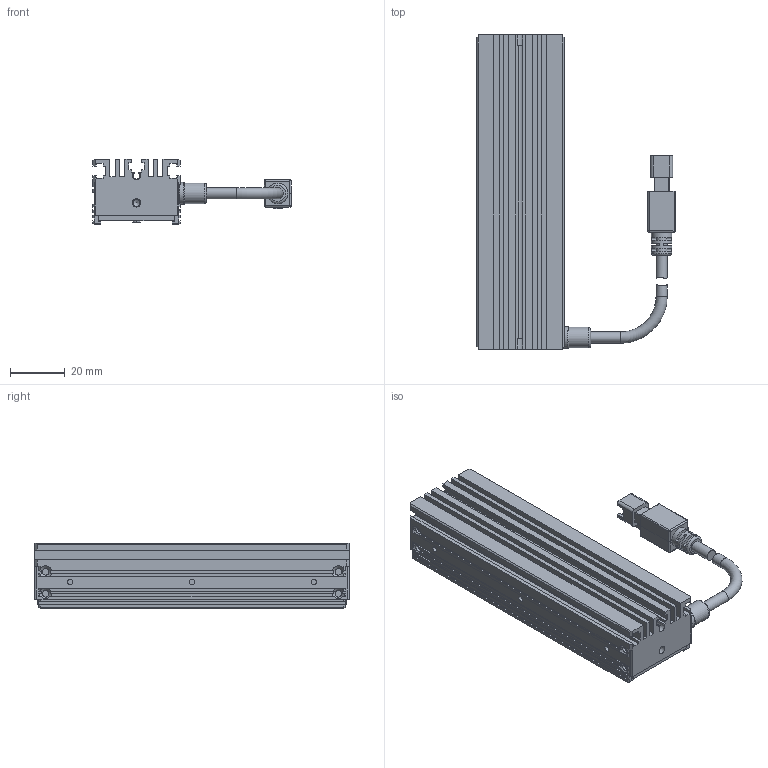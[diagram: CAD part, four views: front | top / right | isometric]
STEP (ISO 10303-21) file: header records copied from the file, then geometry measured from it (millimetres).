
FILE_DESCRIPTION (( 'STEP AP214' ), '1' );
FILE_NAME ('OPT-ILI11532-IR-V1.0U尨砩芞.STEP', '2025-01-18T07:46:02', ( '' ), ( '' ), 'SwSTEP 2.0', 'SolidWorks 2016', '' );
FILE_SCHEMA (( 'AUTOMOTIVE_DESIGN' ));
Length unit declared in the file: millimetre
Products named in the file (1): OPT-ILI11532-IR-V1.0U尨砩芞
Bounding box: 72.6 x 115 x 24 mm (x, y, z)
Volume: 71235.5 mm3; surface area: 32624.6 mm2
Topology: 5 solids, 15 shells, 635 faces, 1646 edges, 1058 vertices
Faces by surface type: plane 437, cylinder 138, cone 30, bspline 20, torus 10
Full cylindrical faces by diameter (mm): 1.1 x2, 1.4 x4, 1.6 x7, 1.8 x2, 2 x13, 2.4 x7, 2.5 x2, 2.6 x2, 3 x2, 3.5 x1, 4.1 x3, 7.5 x2, 8 x1
Entity records: 26063 total; most frequent: CARTESIAN_POINT 4382, ORIENTED_EDGE 3066, DIRECTION 2960, EDGE_CURVE 1533, VECTOR 1070, LINE 1070, VERTEX_POINT 1025, AXIS2_PLACEMENT_3D 945
